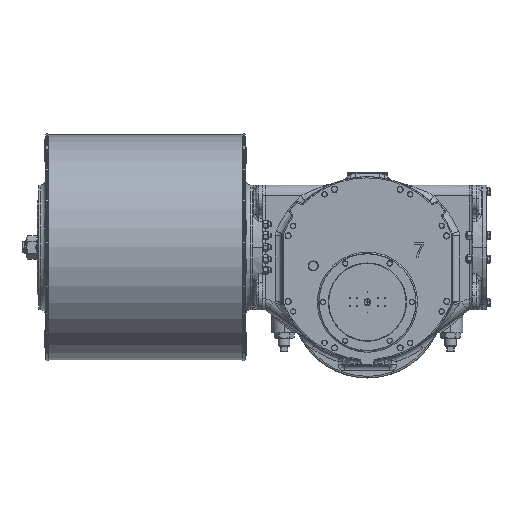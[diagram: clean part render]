
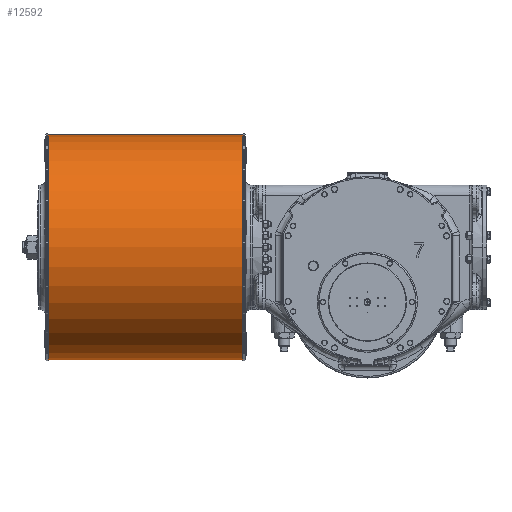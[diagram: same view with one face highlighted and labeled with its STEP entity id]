
A CAD part, top view. The second image highlights one B-rep face of the part: STEP entity #12592.
In plain terms, the highlighted cylindrical face has radius 416 mm (diameter 832 mm), a partial arc.
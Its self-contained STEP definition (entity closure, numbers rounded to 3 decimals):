
#367 = LINE ( 'NONE', #72243, #108645 ) ;
#1491 = LINE ( 'NONE', #101020, #83741 ) ;
#1684 = DIRECTION ( 'NONE',  ( -1., 0., 0. ) ) ;
#10703 = CARTESIAN_POINT ( 'NONE',  ( 715.626, 203., 168. ) ) ;
#12592 = ADVANCED_FACE ( 'NONE', ( #109641 ), #91366, .T. ) ;
#15954 = ORIENTED_EDGE ( 'NONE', *, *, #21142, .F. ) ;
#19127 = VERTEX_POINT ( 'NONE', #68033 ) ;
#19706 = AXIS2_PLACEMENT_3D ( 'NONE', #67989, #94481, #83943 ) ;
#21142 = EDGE_CURVE ( 'NONE', #26805, #82161, #367, .T. ) ;
#26805 = VERTEX_POINT ( 'NONE', #102236 ) ;
#27450 = DIRECTION ( 'NONE',  ( -1., 0., 0. ) ) ;
#30676 = DIRECTION ( 'NONE',  ( -1., 0., 0. ) ) ;
#34668 = ORIENTED_EDGE ( 'NONE', *, *, #115317, .T. ) ;
#37470 = DIRECTION ( 'NONE',  ( -1., 0., 0. ) ) ;
#38016 = ORIENTED_EDGE ( 'NONE', *, *, #48309, .T. ) ;
#46181 = AXIS2_PLACEMENT_3D ( 'NONE', #73007, #1684, #55917 ) ;
#48309 = EDGE_CURVE ( 'NONE', #19127, #73023, #1491, .T. ) ;
#49815 = CIRCLE ( 'NONE', #19706, 416. ) ;
#55917 = DIRECTION ( 'NONE',  ( 0., -1., 0. ) ) ;
#58143 = CARTESIAN_POINT ( 'NONE',  ( -1181., -213., 168. ) ) ;
#66365 = EDGE_CURVE ( 'NONE', #82161, #73023, #72581, .T. ) ;
#67989 = CARTESIAN_POINT ( 'NONE',  ( -461., 203., 168. ) ) ;
#68033 = CARTESIAN_POINT ( 'NONE',  ( -461., 619., 168. ) ) ;
#72243 = CARTESIAN_POINT ( 'NONE',  ( 715.626, -213., 168. ) ) ;
#72581 = CIRCLE ( 'NONE', #46181, 416. ) ;
#73007 = CARTESIAN_POINT ( 'NONE',  ( -1181., 203., 168. ) ) ;
#73023 = VERTEX_POINT ( 'NONE', #93798 ) ;
#73646 = ORIENTED_EDGE ( 'NONE', *, *, #66365, .F. ) ;
#82161 = VERTEX_POINT ( 'NONE', #58143 ) ;
#82574 = DIRECTION ( 'NONE',  ( 0., -1., 0. ) ) ;
#83741 = VECTOR ( 'NONE', #37470, 1000. ) ;
#83943 = DIRECTION ( 'NONE',  ( 0., 1., 0. ) ) ;
#86174 = EDGE_LOOP ( 'NONE', ( #34668, #38016, #73646, #15954 ) ) ;
#91366 = CYLINDRICAL_SURFACE ( 'NONE', #100560, 416. ) ;
#93798 = CARTESIAN_POINT ( 'NONE',  ( -1181., 619., 168. ) ) ;
#94481 = DIRECTION ( 'NONE',  ( -1., 0., 0. ) ) ;
#100560 = AXIS2_PLACEMENT_3D ( 'NONE', #10703, #30676, #82574 ) ;
#101020 = CARTESIAN_POINT ( 'NONE',  ( 715.626, 619., 168. ) ) ;
#102236 = CARTESIAN_POINT ( 'NONE',  ( -461., -213., 168. ) ) ;
#108645 = VECTOR ( 'NONE', #27450, 1000. ) ;
#109641 = FACE_OUTER_BOUND ( 'NONE', #86174, .T. ) ;
#115317 = EDGE_CURVE ( 'NONE', #26805, #19127, #49815, .T. ) ;
